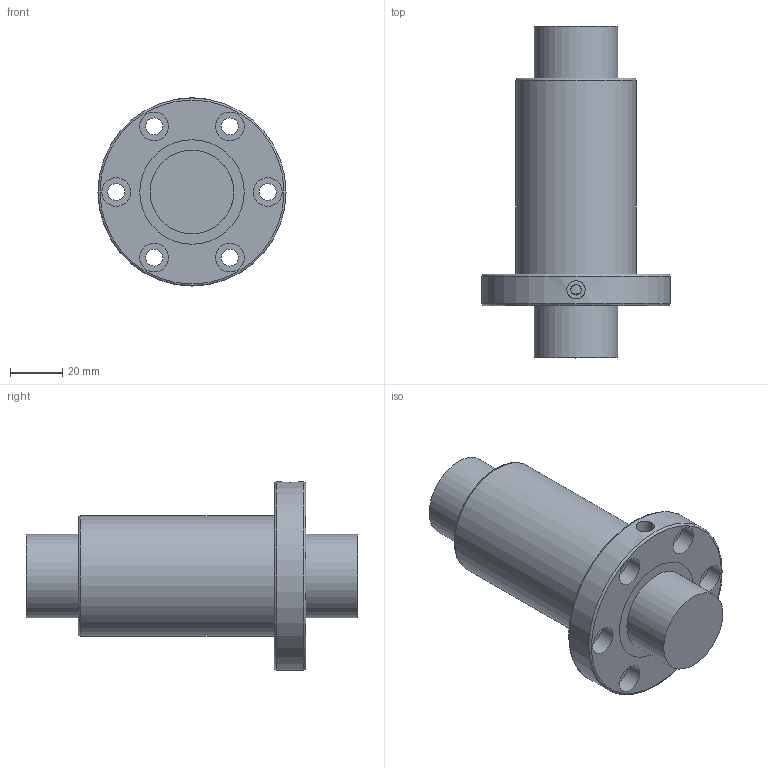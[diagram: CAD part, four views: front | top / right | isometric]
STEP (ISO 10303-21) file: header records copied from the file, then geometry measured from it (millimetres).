
FILE_DESCRIPTION(/* description */ (''),/* implementation_level */ '2;1');
FILE_NAME(/* name */ 'OFI03205-4.stp',/* time_stamp */ '2017-03-13T10:44:34+08:00',/* author */ (''),/* organization */ (''),/* preprocessor_version */ 'ST-DEVELOPER v11',/* originating_system */ 'SIEMENS UGS NX 6.0',/* authorisation */ '');
FILE_SCHEMA (('CONFIG_CONTROL_DESIGN'));
Length unit declared in the file: millimetre
Products named in the file (1): OFI03205-4
Bounding box: 72 x 127 x 72 mm (x, y, z)
Volume: 202447.2 mm3; surface area: 50871.3 mm2
Topology: 5 solids, 5 shells, 49 faces, 96 edges, 64 vertices
Faces by surface type: cylinder 26, plane 20, torus 3
Full cylindrical faces by diameter (mm): 4 x1, 6.5 x6, 7 x1, 11 x6, 32 x5, 40 x5, 46 x1, 72 x1
Entity records: 1314 total; most frequent: CARTESIAN_POINT 285, DIRECTION 212, ORIENTED_EDGE 120, EDGE_LOOP 108, FACE_BOUND 105, AXIS2_PLACEMENT_3D 105, EDGE_CURVE 60, VERTEX_POINT 58
